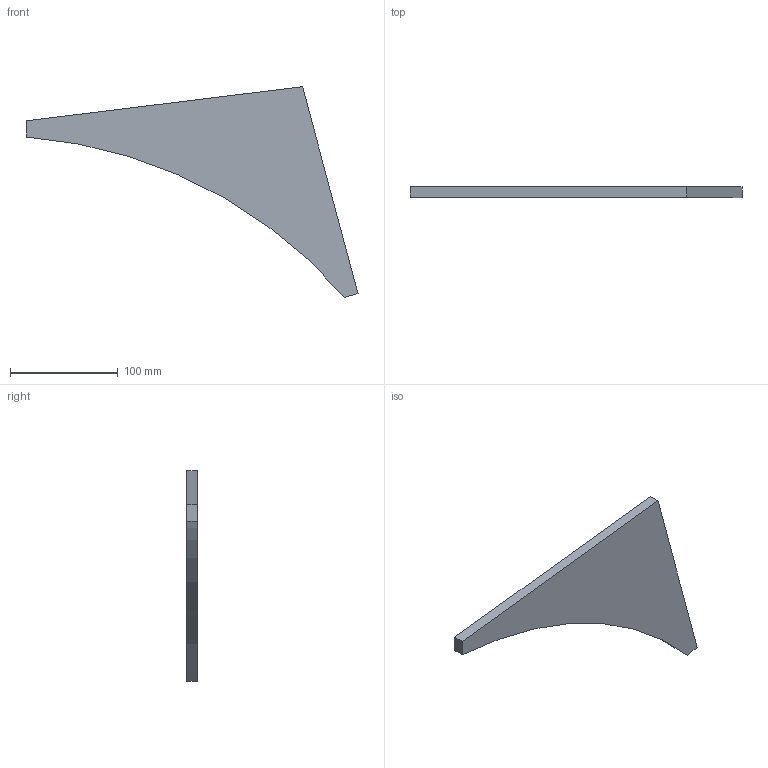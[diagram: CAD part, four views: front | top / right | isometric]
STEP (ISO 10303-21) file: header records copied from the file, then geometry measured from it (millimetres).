
FILE_DESCRIPTION(('FreeCAD Model'),'2;1');
FILE_NAME( 'C:/Users/Sergio Pluchinsky/Downloads/Neues 3D Blechteil (1)001.step', '2017-11-27T19:20:27',('Author'),(''), 'Open CASCADE STEP processor 7.1','FreeCAD','Unknown');
FILE_SCHEMA(('AUTOMOTIVE_DESIGN { 1 0 10303 214 1 1 1 1 }'));
Length unit declared in the file: millimetre
Products named in the file (1): Neues_3D_Blechteil_(1)001
Bounding box: 308.47 x 10 x 195.65 mm (x, y, z)
Volume: 219531.7 mm3; surface area: 52165.9 mm2
Topology: 1 solids, 1 shells, 7 faces, 15 edges, 10 vertices
Faces by surface type: plane 6, cylinder 1
Entity records: 407 total; most frequent: CARTESIAN_POINT 63, DIRECTION 63, LINE 41, VECTOR 41, ORIENTED_EDGE 30, PCURVE 30, DEFINITIONAL_REPRESENTATION 30, EDGE_CURVE 15
